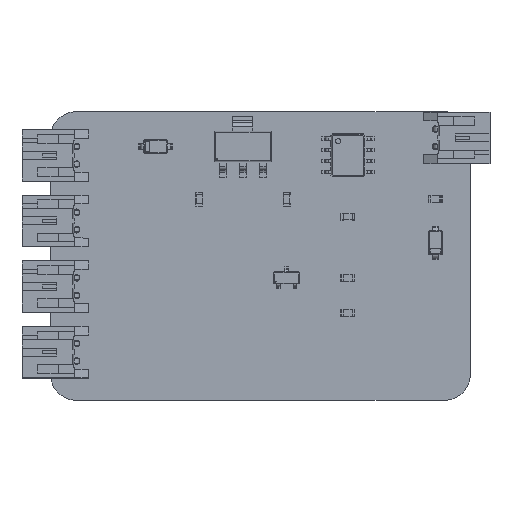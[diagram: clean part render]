
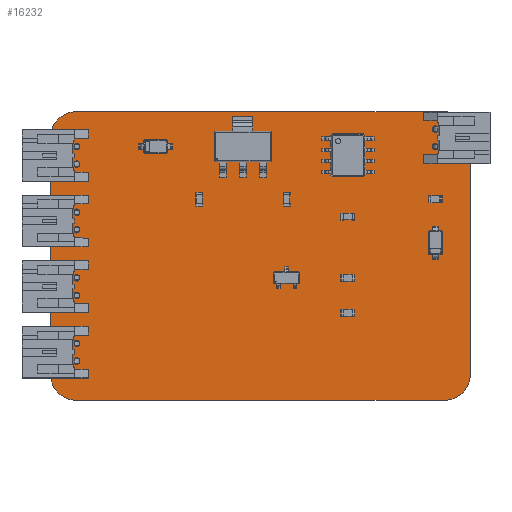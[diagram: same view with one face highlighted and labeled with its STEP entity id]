
A CAD part, top view. The second image highlights one B-rep face of the part: STEP entity #16232.
In plain terms, the highlighted planar face has unit normal (0, 0, 1).
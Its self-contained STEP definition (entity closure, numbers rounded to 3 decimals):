
#15973 = VERTEX_POINT('',#15974);
#15974 = CARTESIAN_POINT('',(163.,-82.438,1.53));
#15980 = EDGE_CURVE('',#15973,#15981,#15983,.T.);
#15981 = VERTEX_POINT('',#15982);
#15982 = CARTESIAN_POINT('',(166.,-85.438,1.53));
#15983 = CIRCLE('',#15984,3.);
#15984 = AXIS2_PLACEMENT_3D('',#15985,#15986,#15987);
#15985 = CARTESIAN_POINT('',(163.,-85.438,1.53));
#15986 = DIRECTION('',(0.,0.,-1.));
#15987 = DIRECTION('',(0.,1.,0.));
#16015 = VERTEX_POINT('',#16016);
#16016 = CARTESIAN_POINT('',(121.,-82.438,1.53));
#16022 = EDGE_CURVE('',#16015,#15973,#16023,.T.);
#16023 = LINE('',#16024,#16025);
#16024 = CARTESIAN_POINT('',(121.,-82.438,1.53));
#16025 = VECTOR('',#16026,1.);
#16026 = DIRECTION('',(1.,0.,0.));
#16044 = EDGE_CURVE('',#15981,#16045,#16047,.T.);
#16045 = VERTEX_POINT('',#16046);
#16046 = CARTESIAN_POINT('',(166.,-112.438,1.53));
#16047 = LINE('',#16048,#16049);
#16048 = CARTESIAN_POINT('',(166.,-85.438,1.53));
#16049 = VECTOR('',#16050,1.);
#16050 = DIRECTION('',(0.,-1.,0.));
#16232 = ADVANCED_FACE('',(#16233,#16279,#16290,#16301,#16312,#16323,
    #16334,#16345,#16356,#16367,#16378),#16389,.T.);
#16233 = FACE_BOUND('',#16234,.T.);
#16234 = EDGE_LOOP('',(#16235,#16236,#16237,#16246,#16254,#16263,#16271,
    #16278));
#16235 = ORIENTED_EDGE('',*,*,#15980,.F.);
#16236 = ORIENTED_EDGE('',*,*,#16022,.F.);
#16237 = ORIENTED_EDGE('',*,*,#16238,.F.);
#16238 = EDGE_CURVE('',#16239,#16015,#16241,.T.);
#16239 = VERTEX_POINT('',#16240);
#16240 = CARTESIAN_POINT('',(118.,-85.438,1.53));
#16241 = CIRCLE('',#16242,3.);
#16242 = AXIS2_PLACEMENT_3D('',#16243,#16244,#16245);
#16243 = CARTESIAN_POINT('',(121.,-85.438,1.53));
#16244 = DIRECTION('',(0.,0.,-1.));
#16245 = DIRECTION('',(-1.,0.,0.));
#16246 = ORIENTED_EDGE('',*,*,#16247,.F.);
#16247 = EDGE_CURVE('',#16248,#16239,#16250,.T.);
#16248 = VERTEX_POINT('',#16249);
#16249 = CARTESIAN_POINT('',(118.,-112.438,1.53));
#16250 = LINE('',#16251,#16252);
#16251 = CARTESIAN_POINT('',(118.,-112.438,1.53));
#16252 = VECTOR('',#16253,1.);
#16253 = DIRECTION('',(0.,1.,0.));
#16254 = ORIENTED_EDGE('',*,*,#16255,.F.);
#16255 = EDGE_CURVE('',#16256,#16248,#16258,.T.);
#16256 = VERTEX_POINT('',#16257);
#16257 = CARTESIAN_POINT('',(121.,-115.438,1.53));
#16258 = CIRCLE('',#16259,3.);
#16259 = AXIS2_PLACEMENT_3D('',#16260,#16261,#16262);
#16260 = CARTESIAN_POINT('',(121.,-112.437,1.53));
#16261 = DIRECTION('',(0.,0.,-1.));
#16262 = DIRECTION('',(0.,-1.,-0.));
#16263 = ORIENTED_EDGE('',*,*,#16264,.F.);
#16264 = EDGE_CURVE('',#16265,#16256,#16267,.T.);
#16265 = VERTEX_POINT('',#16266);
#16266 = CARTESIAN_POINT('',(163.,-115.438,1.53));
#16267 = LINE('',#16268,#16269);
#16268 = CARTESIAN_POINT('',(163.,-115.438,1.53));
#16269 = VECTOR('',#16270,1.);
#16270 = DIRECTION('',(-1.,0.,0.));
#16271 = ORIENTED_EDGE('',*,*,#16272,.F.);
#16272 = EDGE_CURVE('',#16045,#16265,#16273,.T.);
#16273 = CIRCLE('',#16274,3.);
#16274 = AXIS2_PLACEMENT_3D('',#16275,#16276,#16277);
#16275 = CARTESIAN_POINT('',(163.,-112.437,1.53));
#16276 = DIRECTION('',(0.,0.,-1.));
#16277 = DIRECTION('',(1.,0.,0.));
#16278 = ORIENTED_EDGE('',*,*,#16044,.F.);
#16279 = FACE_BOUND('',#16280,.T.);
#16280 = EDGE_LOOP('',(#16281));
#16281 = ORIENTED_EDGE('',*,*,#16282,.T.);
#16282 = EDGE_CURVE('',#16283,#16283,#16285,.T.);
#16283 = VERTEX_POINT('',#16284);
#16284 = CARTESIAN_POINT('',(121.,-111.313,1.53));
#16285 = CIRCLE('',#16286,0.375);
#16286 = AXIS2_PLACEMENT_3D('',#16287,#16288,#16289);
#16287 = CARTESIAN_POINT('',(121.,-110.938,1.53));
#16288 = DIRECTION('',(-0.,0.,-1.));
#16289 = DIRECTION('',(-0.,-1.,0.));
#16290 = FACE_BOUND('',#16291,.T.);
#16291 = EDGE_LOOP('',(#16292));
#16292 = ORIENTED_EDGE('',*,*,#16293,.T.);
#16293 = EDGE_CURVE('',#16294,#16294,#16296,.T.);
#16294 = VERTEX_POINT('',#16295);
#16295 = CARTESIAN_POINT('',(121.,-109.313,1.53));
#16296 = CIRCLE('',#16297,0.375);
#16297 = AXIS2_PLACEMENT_3D('',#16298,#16299,#16300);
#16298 = CARTESIAN_POINT('',(121.,-108.938,1.53));
#16299 = DIRECTION('',(-0.,0.,-1.));
#16300 = DIRECTION('',(-0.,-1.,0.));
#16301 = FACE_BOUND('',#16302,.T.);
#16302 = EDGE_LOOP('',(#16303));
#16303 = ORIENTED_EDGE('',*,*,#16304,.T.);
#16304 = EDGE_CURVE('',#16305,#16305,#16307,.T.);
#16305 = VERTEX_POINT('',#16306);
#16306 = CARTESIAN_POINT('',(121.,-103.813,1.53));
#16307 = CIRCLE('',#16308,0.375);
#16308 = AXIS2_PLACEMENT_3D('',#16309,#16310,#16311);
#16309 = CARTESIAN_POINT('',(121.,-103.438,1.53));
#16310 = DIRECTION('',(-0.,0.,-1.));
#16311 = DIRECTION('',(-0.,-1.,0.));
#16312 = FACE_BOUND('',#16313,.T.);
#16313 = EDGE_LOOP('',(#16314));
#16314 = ORIENTED_EDGE('',*,*,#16315,.T.);
#16315 = EDGE_CURVE('',#16316,#16316,#16318,.T.);
#16316 = VERTEX_POINT('',#16317);
#16317 = CARTESIAN_POINT('',(121.,-101.813,1.53));
#16318 = CIRCLE('',#16319,0.375);
#16319 = AXIS2_PLACEMENT_3D('',#16320,#16321,#16322);
#16320 = CARTESIAN_POINT('',(121.,-101.438,1.53));
#16321 = DIRECTION('',(-0.,0.,-1.));
#16322 = DIRECTION('',(-0.,-1.,0.));
#16323 = FACE_BOUND('',#16324,.T.);
#16324 = EDGE_LOOP('',(#16325));
#16325 = ORIENTED_EDGE('',*,*,#16326,.T.);
#16326 = EDGE_CURVE('',#16327,#16327,#16329,.T.);
#16327 = VERTEX_POINT('',#16328);
#16328 = CARTESIAN_POINT('',(121.,-96.313,1.53));
#16329 = CIRCLE('',#16330,0.375);
#16330 = AXIS2_PLACEMENT_3D('',#16331,#16332,#16333);
#16331 = CARTESIAN_POINT('',(121.,-95.938,1.53));
#16332 = DIRECTION('',(-0.,0.,-1.));
#16333 = DIRECTION('',(-0.,-1.,0.));
#16334 = FACE_BOUND('',#16335,.T.);
#16335 = EDGE_LOOP('',(#16336));
#16336 = ORIENTED_EDGE('',*,*,#16337,.T.);
#16337 = EDGE_CURVE('',#16338,#16338,#16340,.T.);
#16338 = VERTEX_POINT('',#16339);
#16339 = CARTESIAN_POINT('',(121.,-94.313,1.53));
#16340 = CIRCLE('',#16341,0.375);
#16341 = AXIS2_PLACEMENT_3D('',#16342,#16343,#16344);
#16342 = CARTESIAN_POINT('',(121.,-93.938,1.53));
#16343 = DIRECTION('',(-0.,0.,-1.));
#16344 = DIRECTION('',(-0.,-1.,0.));
#16345 = FACE_BOUND('',#16346,.T.);
#16346 = EDGE_LOOP('',(#16347));
#16347 = ORIENTED_EDGE('',*,*,#16348,.T.);
#16348 = EDGE_CURVE('',#16349,#16349,#16351,.T.);
#16349 = VERTEX_POINT('',#16350);
#16350 = CARTESIAN_POINT('',(121.,-88.813,1.53));
#16351 = CIRCLE('',#16352,0.375);
#16352 = AXIS2_PLACEMENT_3D('',#16353,#16354,#16355);
#16353 = CARTESIAN_POINT('',(121.,-88.438,1.53));
#16354 = DIRECTION('',(-0.,0.,-1.));
#16355 = DIRECTION('',(-0.,-1.,0.));
#16356 = FACE_BOUND('',#16357,.T.);
#16357 = EDGE_LOOP('',(#16358));
#16358 = ORIENTED_EDGE('',*,*,#16359,.T.);
#16359 = EDGE_CURVE('',#16360,#16360,#16362,.T.);
#16360 = VERTEX_POINT('',#16361);
#16361 = CARTESIAN_POINT('',(121.,-86.813,1.53));
#16362 = CIRCLE('',#16363,0.375);
#16363 = AXIS2_PLACEMENT_3D('',#16364,#16365,#16366);
#16364 = CARTESIAN_POINT('',(121.,-86.438,1.53));
#16365 = DIRECTION('',(-0.,0.,-1.));
#16366 = DIRECTION('',(-0.,-1.,0.));
#16367 = FACE_BOUND('',#16368,.T.);
#16368 = EDGE_LOOP('',(#16369));
#16369 = ORIENTED_EDGE('',*,*,#16370,.T.);
#16370 = EDGE_CURVE('',#16371,#16371,#16373,.T.);
#16371 = VERTEX_POINT('',#16372);
#16372 = CARTESIAN_POINT('',(162.,-86.813,1.53));
#16373 = CIRCLE('',#16374,0.375);
#16374 = AXIS2_PLACEMENT_3D('',#16375,#16376,#16377);
#16375 = CARTESIAN_POINT('',(162.,-86.438,1.53));
#16376 = DIRECTION('',(-0.,0.,-1.));
#16377 = DIRECTION('',(-0.,-1.,0.));
#16378 = FACE_BOUND('',#16379,.T.);
#16379 = EDGE_LOOP('',(#16380));
#16380 = ORIENTED_EDGE('',*,*,#16381,.T.);
#16381 = EDGE_CURVE('',#16382,#16382,#16384,.T.);
#16382 = VERTEX_POINT('',#16383);
#16383 = CARTESIAN_POINT('',(162.,-84.813,1.53));
#16384 = CIRCLE('',#16385,0.375);
#16385 = AXIS2_PLACEMENT_3D('',#16386,#16387,#16388);
#16386 = CARTESIAN_POINT('',(162.,-84.438,1.53));
#16387 = DIRECTION('',(-0.,0.,-1.));
#16388 = DIRECTION('',(-0.,-1.,0.));
#16389 = PLANE('',#16390);
#16390 = AXIS2_PLACEMENT_3D('',#16391,#16392,#16393);
#16391 = CARTESIAN_POINT('',(0.,0.,1.53));
#16392 = DIRECTION('',(0.,0.,1.));
#16393 = DIRECTION('',(1.,0.,-0.));
